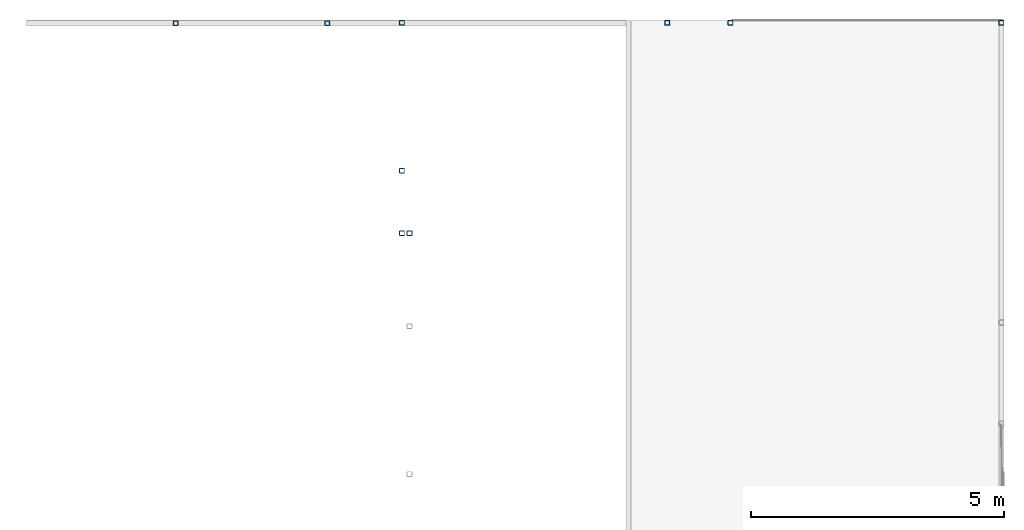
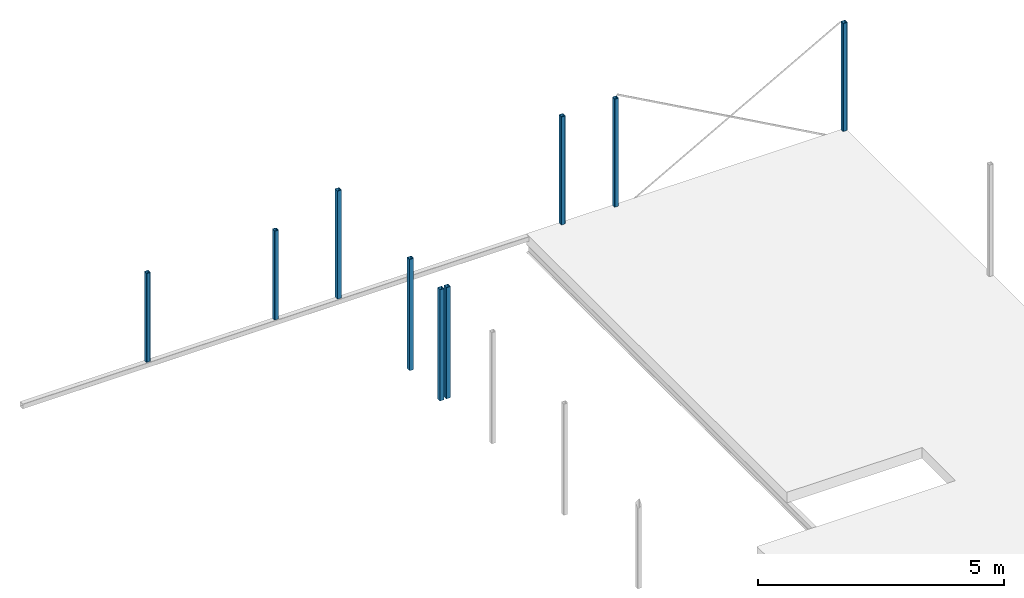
# One storey, part 4 of 7: 9 columns.
"""IFC2X3 building model written with IfcOpenShell, lengths in millimetres."""

import ifcopenshell
import ifcopenshell.guid

model = None  # the IFC model being written
_history = None  # IfcOwnerHistory: only IFC2X3 demands one
_inside = {}  # id of a spatial element -> (the spatial element, [elements in it])
_under = {}  # id of a project, library or spatial element -> (it, [spatial elements below it])
_declared = {}  # id of a project -> (the project, [libraries it declares])
_typed = {}  # id of a type object -> (the type object, [elements of that type])
_made_of = {}  # id of a material, layer set ... -> (it, [elements and type objects made of it])


def new_model(schema):
    """Start an empty IFC model of exactly this schema.

    Asked for "IFC4X3", IfcOpenShell would pick the latest addendum, in which some entities
    have other attributes; the version numbers below select the first issue.
    IFC2X3 requires an IfcOwnerHistory on every rooted entity: one is made here for all.
    """
    global model, _history
    if schema == "IFC4X3":
        model = ifcopenshell.file(schema_version=(4, 3, 0, 0))
    else:
        model = ifcopenshell.file(schema=schema)
    _inside.clear()
    _under.clear()
    _declared.clear()
    _typed.clear()
    _made_of.clear()
    _history = None
    if model.schema == "IFC2X3":
        org = make("IfcOrganization", Name="unknown")
        user = make(
            "IfcPersonAndOrganization",
            ThePerson=make("IfcPerson", FamilyName="unknown"),
            TheOrganization=org,
        )
        app = make(
            "IfcApplication",
            ApplicationDeveloper=org,
            Version="unknown",
            ApplicationFullName="unknown",
            ApplicationIdentifier="unknown",
        )
        _history = make(
            "IfcOwnerHistory",
            OwningUser=user,
            OwningApplication=app,
            ChangeAction="ADDED",
            CreationDate=0,
        )
    return model


def make(cls, **values):
    """One entity of the class cls with the attributes given. An attribute that is None is left unset."""
    return model.create_entity(
        cls, **{name: value for name, value in values.items() if value is not None}
    )


def entity(cls, *values):
    """Any entity or typed value of the class cls, its attributes in the order of the schema. None: left unset."""
    e = model.create_entity(cls)
    for i, value in enumerate(values):
        if value is not None:
            e[i] = value
    return e


def rooted(cls, **values):
    """An entity with a GlobalId (a new one), such as an element, a storey or a relation."""
    return make(cls, GlobalId=ifcopenshell.guid.new(), OwnerHistory=_history, **values)


def si_unit(unit_type, name, prefix=None):
    """IfcSIUnit, for example si_unit("LENGTHUNIT", "METRE", prefix="MILLI")."""
    return make("IfcSIUnit", UnitType=unit_type, Prefix=prefix, Name=name)


def converted_unit(unit_type, name, factor, base, dimensions=None, offset=None):
    """IfcConversionBasedUnit, such as the inch: factor (a typed value) times the base unit."""
    return make(
        "IfcConversionBasedUnit"
        if offset is None
        else "IfcConversionBasedUnitWithOffset",
        ConversionOffset=offset,
        Dimensions=None
        if dimensions is None
        else entity("IfcDimensionalExponents", *dimensions),
        UnitType=unit_type,
        Name=name,
        ConversionFactor=make(
            "IfcMeasureWithUnit", ValueComponent=factor, UnitComponent=base
        ),
    )


def derived_unit(unit_type, elements):
    """IfcDerivedUnit: a product of units, each with its exponent."""
    return make(
        "IfcDerivedUnit",
        Elements=[
            make("IfcDerivedUnitElement", Unit=unit, Exponent=power)
            for unit, power in elements
        ],
        UnitType=unit_type,
    )


def assignment(units):
    """IfcUnitAssignment: the units of a project."""
    return None if units is None else make("IfcUnitAssignment", Units=units)


def point(xyz):
    """IfcCartesianPoint."""
    return None if xyz is None else make("IfcCartesianPoint", Coordinates=xyz)


def direction(xyz):
    """IfcDirection."""
    return None if xyz is None else make("IfcDirection", DirectionRatios=xyz)


def frame(location, z_axis=None, x_axis=None):
    """IfcAxis2Placement3D, a coordinate frame: its origin and axes. An axis left out is left unset."""
    return make(
        "IfcAxis2Placement3D",
        Location=point(location),
        Axis=direction(z_axis),
        RefDirection=direction(x_axis),
    )


def frame_2d(location, x_axis=None):
    """IfcAxis2Placement2D, a coordinate frame in the plane: its origin and x axis."""
    return make(
        "IfcAxis2Placement2D", Location=point(location), RefDirection=direction(x_axis)
    )


def origin():
    """The frame at (0, 0, 0) with its axes left unset."""
    return frame((0.0, 0.0, 0.0))


def place(relative_to, where):
    """IfcLocalPlacement: puts the frame where relative to a parent placement (None: the world)."""
    return make(
        "IfcLocalPlacement", PlacementRelTo=relative_to, RelativePlacement=where
    )


def context(
    kind, dimensions, precision=None, world=None, true_north=None, identifier=None
):
    """IfcGeometricRepresentationContext, for example the 3D "Model" context."""
    return make(
        "IfcGeometricRepresentationContext",
        ContextIdentifier=identifier,
        ContextType=kind,
        CoordinateSpaceDimension=dimensions,
        Precision=precision,
        WorldCoordinateSystem=world,
        TrueNorth=true_north,
    )


def subcontext(parent, identifier, kind, view, scale=None):
    """IfcGeometricRepresentationSubContext, for example "Body" below "Model"."""
    return make(
        "IfcGeometricRepresentationSubContext",
        ContextIdentifier=identifier,
        ContextType=kind,
        ParentContext=parent,
        TargetScale=scale,
        TargetView=view,
    )


def project(units=None, contexts=None):
    """IfcProject with its units and contexts."""
    return rooted(
        "IfcProject",
        Name="project",
        RepresentationContexts=contexts,
        UnitsInContext=assignment(units),
    )


def spatial(cls, under=None, at=None, **own):
    """A site, building, storey or space (cls), placed at a placement, below another one or the project."""
    s = rooted(cls, ObjectPlacement=at, **own)
    if under is not None:
        _under.setdefault(under.id(), (under, []))[1].append(s)
    return s


def polyline(points):
    """IfcPolyline through the points."""
    return make("IfcPolyline", Points=[point(p) for p in points])


def circle_curve(where, radius):
    """IfcCircle in the frame where."""
    return make("IfcCircle", Position=where, Radius=radius)


def parameter(value):
    """IfcParameterValue: where a trimmed curve begins or ends, as a parameter of its basis curve."""
    return model.create_entity("IfcParameterValue", value)


def trimmed(basis, trim1, trim2, sense, master):
    """IfcTrimmedCurve: the piece of a basis curve between two trims."""
    return make(
        "IfcTrimmedCurve",
        BasisCurve=basis,
        Trim1=trim1,
        Trim2=trim2,
        SenseAgreement=sense,
        MasterRepresentation=master,
    )


def segment(curve, same_sense, transition):
    """IfcCompositeCurveSegment."""
    return make(
        "IfcCompositeCurveSegment",
        Transition=transition,
        SameSense=same_sense,
        ParentCurve=curve,
    )


def composite_curve(segments, self_intersect=None):
    """IfcCompositeCurve: segments joined end to end."""
    return make("IfcCompositeCurve", Segments=segments, SelfIntersect=self_intersect)


def outline(outer, holes=None, kind="AREA"):
    """IfcArbitraryClosedProfileDef: a profile drawn as a closed curve; with holes, ...WithVoids."""
    if holes is None:
        return make("IfcArbitraryClosedProfileDef", ProfileType=kind, OuterCurve=outer)
    return make(
        "IfcArbitraryProfileDefWithVoids",
        ProfileType=kind,
        OuterCurve=outer,
        InnerCurves=holes,
    )


def extrude(swept, where, along, depth):
    """IfcExtrudedAreaSolid: the profile swept, set in the frame where, extruded along a direction by depth."""
    return make(
        "IfcExtrudedAreaSolid",
        SweptArea=swept,
        Position=where,
        ExtrudedDirection=direction(along),
        Depth=depth,
    )


def shape(context_of_items, identifier, shape_type, items):
    """IfcShapeRepresentation: the items that make up one representation, for example the "Body"."""
    return make(
        "IfcShapeRepresentation",
        ContextOfItems=context_of_items,
        RepresentationIdentifier=identifier,
        RepresentationType=shape_type,
        Items=items,
    )


def source(mapping_origin, context_of_items, identifier, shape_type, items):
    """IfcRepresentationMap: a shape defined once, which mapped items show again and again."""
    return make(
        "IfcRepresentationMap",
        MappingOrigin=mapping_origin,
        MappedRepresentation=shape(context_of_items, identifier, shape_type, items),
    )


def transform(
    local_origin,
    x_axis=None,
    y_axis=None,
    z_axis=None,
    scale=None,
    scale2=None,
    scale3=None,
    uniform=True,
):
    """IfcCartesianTransformationOperator3D, or its non-uniform kind. x_axis, y_axis, z_axis: its Axis1, 2, 3."""
    if uniform:
        return make(
            "IfcCartesianTransformationOperator3D",
            Axis1=direction(x_axis),
            Axis2=direction(y_axis),
            LocalOrigin=point(local_origin),
            Scale=scale,
            Axis3=direction(z_axis),
        )
    return make(
        "IfcCartesianTransformationOperator3DnonUniform",
        Axis1=direction(x_axis),
        Axis2=direction(y_axis),
        LocalOrigin=point(local_origin),
        Scale=scale,
        Axis3=direction(z_axis),
        Scale2=scale2,
        Scale3=scale3,
    )


def mapped(mapping_source, mapping_target):
    """IfcMappedItem: shows the shape of a source again, moved by a transform."""
    return make(
        "IfcMappedItem", MappingSource=mapping_source, MappingTarget=mapping_target
    )


def material(Name=None, Category=None):
    """IfcMaterial."""
    return make("IfcMaterial", Name=Name, Category=Category)


def made_of(thing, what):
    """Note that an element or type object is made of a material, layer set ...; save() writes the relation."""
    if what is not None:
        _made_of.setdefault(what.id(), (what, []))[1].append(thing)
    return thing


def type_object(cls, material=None, **own):
    """A type object (cls), such as IfcWallType, which elements share."""
    return made_of(rooted(cls, **own), material)


def type_shapes(of_type, sources):
    """Give a type object the sources (RepresentationMaps) that its elements show as mapped items."""
    of_type.RepresentationMaps = sources


def element(
    cls,
    number,
    at=None,
    inside=None,
    cuts=None,
    type_object=None,
    material=None,
    context=None,
    identifier="Body",
    shape_type=None,
    held_by="IfcProductDefinitionShape",
    body=None,
    shapes=None,
    **own,
):
    """One element of the class cls, such as IfcWall. Its Tag is "e" and its number.

    at: its placement. inside: the storey or other place that contains it. cuts: it is an
    opening in that element (IfcRelVoidsElement). A single representation is given by context,
    identifier, shape_type and body (its items); several are given by shapes. held_by: the class
    of the entity that holds the representations. save() writes the other relations.
    """
    e = rooted(cls, Tag="e%d" % number, ObjectPlacement=at, **own)
    if body is not None:
        shapes = [shape(context, identifier, shape_type, body)]
    if shapes is not None:
        e.Representation = make(held_by, Representations=shapes)
    if inside is not None:
        _inside.setdefault(inside.id(), (inside, []))[1].append(e)
    if cuts is not None:
        rooted(
            "IfcRelVoidsElement", RelatingBuildingElement=cuts, RelatedOpeningElement=e
        )
    if type_object is not None:
        _typed.setdefault(type_object.id(), (type_object, []))[1].append(e)
    return made_of(e, material)


def aggregate(whole, parts):
    """IfcRelAggregates: a whole, such as a stair, and the parts it consists of."""
    return rooted("IfcRelAggregates", RelatingObject=whole, RelatedObjects=parts)


def save(model, path):
    """Write the relations noted so far, then the file.

    IfcRelAggregates (storeys below a building ...), IfcRelContainedInSpatialStructure (elements
    in a storey), IfcRelDefinesByType, IfcRelAssociatesMaterial and IfcRelDeclares: one each for
    every whole, place, type object, material and project.
    """
    for whole, parts in _under.values():
        aggregate(whole, parts)
    for where, things in _inside.values():
        rooted(
            "IfcRelContainedInSpatialStructure",
            RelatedElements=things,
            RelatingStructure=where,
        )
    for kind, things in _typed.values():
        rooted("IfcRelDefinesByType", RelatedObjects=things, RelatingType=kind)
    for what, things in _made_of.values():
        rooted("IfcRelAssociatesMaterial", RelatedObjects=things, RelatingMaterial=what)
    for by, libraries in _declared.values():
        rooted("IfcRelDeclares", RelatingContext=by, RelatedDefinitions=libraries)
    model.write(path)


model = new_model("IFC2X3")

# Units and contexts
model_context = context("Model", 3, precision=0.01, world=origin(), true_north=direction((6.12303176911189e-17, 1.0)))
body_context = subcontext(model_context, "Body", "Model", "MODEL_VIEW")
ifc_project = project(units=[si_unit("LENGTHUNIT", "METRE", prefix="MILLI"), si_unit("AREAUNIT", "SQUARE_METRE"), si_unit("VOLUMEUNIT", "CUBIC_METRE"), converted_unit("PLANEANGLEUNIT", "DEGREE", entity("IfcRatioMeasure", 0.0174532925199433), si_unit("PLANEANGLEUNIT", "RADIAN"), dimensions=[0, 0, 0, 0, 0, 0, 0]), si_unit("MASSUNIT", "GRAM", prefix="KILO"), derived_unit("MASSDENSITYUNIT", [(si_unit("MASSUNIT", "GRAM", prefix="KILO"), 1), (si_unit("LENGTHUNIT", "METRE"), -3)]), si_unit("TIMEUNIT", "SECOND"), si_unit("FREQUENCYUNIT", "HERTZ"), si_unit("THERMODYNAMICTEMPERATUREUNIT", "DEGREE_CELSIUS"), derived_unit("THERMALTRANSMITTANCEUNIT", [(si_unit("MASSUNIT", "GRAM", prefix="KILO"), 1), (si_unit("THERMODYNAMICTEMPERATUREUNIT", "KELVIN"), -1), (si_unit("TIMEUNIT", "SECOND"), -3)]), derived_unit("VOLUMETRICFLOWRATEUNIT", [(si_unit("LENGTHUNIT", "METRE"), 3), (si_unit("TIMEUNIT", "SECOND"), -1)]), si_unit("ELECTRICCURRENTUNIT", "AMPERE"), si_unit("ELECTRICVOLTAGEUNIT", "VOLT"), si_unit("POWERUNIT", "WATT"), si_unit("FORCEUNIT", "NEWTON", prefix="KILO"), si_unit("ILLUMINANCEUNIT", "LUX"), si_unit("LUMINOUSFLUXUNIT", "LUMEN"), si_unit("LUMINOUSINTENSITYUNIT", "CANDELA"), derived_unit("USERDEFINED", [(si_unit("MASSUNIT", "GRAM", prefix="KILO"), -1), (si_unit("LENGTHUNIT", "METRE"), -2), (si_unit("TIMEUNIT", "SECOND"), 3), (si_unit("LUMINOUSFLUXUNIT", "LUMEN"), 1)]), derived_unit("LINEARVELOCITYUNIT", [(si_unit("LENGTHUNIT", "METRE"), 1), (si_unit("TIMEUNIT", "SECOND"), -1)]), si_unit("PRESSUREUNIT", "PASCAL"), derived_unit("USERDEFINED", [(si_unit("LENGTHUNIT", "METRE"), -2), (si_unit("MASSUNIT", "GRAM", prefix="KILO"), 1), (si_unit("TIMEUNIT", "SECOND"), -2)])], contexts=[model_context])

# Site, building, storey
site_placement = place(None, frame((0.0, 0.0, 101000.0)))
site = spatial("IfcSite", under=ifc_project, at=site_placement, Name="Default", CompositionType="ELEMENT")
building_placement = place(site_placement, origin())
building = spatial("IfcBuilding", under=site, at=building_placement, CompositionType="ELEMENT")
storey_placement = place(building_placement, frame((0.0, 0.0, 3150.0)))
storey = spatial("IfcBuildingStorey", under=building, at=storey_placement, Name="02", CompositionType="ELEMENT", Elevation=3149.9999999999)

# Columns
ifc_material = material(Name="S355")
column_type_1 = type_object("IfcColumnType", Name="HUP 100x100x6.3", PredefinedType="COLUMN", material=ifc_material)
shared_shape_1 = source(origin(), body_context, "Body", "SweptSolid", [
    extrude(outline(composite_curve([segment(polyline([(-37.4000000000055, -50.0), (37.4000000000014, -50.0)]), True, "CONTINUOUS"), segment(trimmed(circle_curve(frame_2d((37.4000000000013, -37.3999999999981), x_axis=(-1.0, 0.0)), 12.6000000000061), [parameter(90.0000000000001)], [parameter(180.0)], True, "PARAMETER"), True, "CONTINUOUS"), segment(polyline([(50.0, -37.3999999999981), (50.0, 37.4000000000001)]), True, "CONTINUOUS"), segment(trimmed(circle_curve(frame_2d((37.4000000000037, 37.4000000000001), x_axis=(-1.0, 0.0)), 12.6000000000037), [parameter(180.0)], [parameter(270.0)], True, "PARAMETER"), True, "CONTINUOUS"), segment(polyline([(37.4000000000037, 50.0), (-37.4000000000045, 50.0)]), True, "CONTINUOUS"), segment(trimmed(circle_curve(frame_2d((-37.4000000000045, 37.4000000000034), x_axis=(-1.0, 0.0)), 12.6000000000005), [parameter(270.0)], [parameter(360.0)], True, "PARAMETER"), True, "CONTINUOUS"), segment(polyline([(-50.0, 37.4000000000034), (-50.0, -37.4000000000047)]), True, "CONTINUOUS"), segment(trimmed(circle_curve(frame_2d((-37.4000000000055, -37.4000000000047), x_axis=(-1.0, 0.0)), 12.5999999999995), [parameter(360.0)], [parameter(89.9999999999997)], True, "PARAMETER"), True, "CONTINUOUS")], self_intersect=False), holes=[composite_curve([segment(trimmed(circle_curve(frame_2d((-37.4000000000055, -37.4000000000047), x_axis=(-1.0, 0.0)), 6.2999999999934), [parameter(0.0)], [parameter(90.0)], True, "PARAMETER"), False, "CONTINUOUS"), segment(polyline([(-43.6999999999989, -37.4000000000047), (-43.6999999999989, 37.4000000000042)]), True, "CONTINUOUS"), segment(trimmed(circle_curve(frame_2d((-37.4000000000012, 37.4000000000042), x_axis=(-1.0, 0.0)), 6.29999999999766), [parameter(270.0)], [parameter(360.0)], True, "PARAMETER"), False, "CONTINUOUS"), segment(polyline([(-37.4000000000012, 43.7000000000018), (37.3999999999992, 43.7000000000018)]), True, "CONTINUOUS"), segment(trimmed(circle_curve(frame_2d((37.3999999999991, 37.3999999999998), x_axis=(-1.0, 0.0)), 6.30000000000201), [parameter(180.0)], [parameter(270.0)], True, "PARAMETER"), False, "CONTINUOUS"), segment(polyline([(43.7000000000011, 37.3999999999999), (43.7000000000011, -37.3999999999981)]), True, "CONTINUOUS"), segment(trimmed(circle_curve(frame_2d((37.4000000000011, -37.3999999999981), x_axis=(-1.0, 0.0)), 6.30000000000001), [parameter(90.0000000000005)], [parameter(180.0)], True, "PARAMETER"), False, "CONTINUOUS"), segment(polyline([(37.4000000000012, -43.6999999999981), (-37.4000000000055, -43.6999999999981)]), True, "CONTINUOUS")], self_intersect=False)]), frame((0.0, 0.0, 3150.0), z_axis=(0.0, 0.0, 1.0), x_axis=(-1.0, 0.0, 0.0)), (0.0, 0.0, 1.0), 2755.0),
])
type_shapes(column_type_1, [shared_shape_1])
for number, where, name in (
    (1, (11260.9045409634, 41417.9507529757, -3150.0), "Søyle HUP:HUP 100x100x6.3"),
    (2, (11260.9045409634, 40181.9922592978, -3150.0), "Søyle HUP:HUP 100x100x6.3"),
    (3, (11411.2644969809, 40181.9922592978, -3150.0), "Søyle HUP:HUP 100x100x6.3"),
):
    element("IfcColumn", number, at=place(storey_placement, frame(where)), inside=storey, type_object=column_type_1, material=ifc_material, Name=name, ObjectType="HUP 100x100x6.3", context=body_context, shape_type="MappedRepresentation", body=[
        mapped(shared_shape_1, transform((0.0, 0.0, 0.0), scale=1.0)),
    ])
column_type_2 = type_object("IfcColumnType", Name="HUP 100x100x6.3", PredefinedType="COLUMN", material=ifc_material)
shared_shape_2 = source(origin(), body_context, "Body", "SweptSolid", [
    extrude(outline(composite_curve([segment(polyline([(-37.4000000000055, -50.0), (37.4000000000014, -50.0)]), True, "CONTINUOUS"), segment(trimmed(circle_curve(frame_2d((37.4000000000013, -37.3999999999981), x_axis=(-1.0, 0.0)), 12.6000000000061), [parameter(90.0000000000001)], [parameter(180.0)], True, "PARAMETER"), True, "CONTINUOUS"), segment(polyline([(50.0, -37.3999999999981), (50.0, 37.4000000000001)]), True, "CONTINUOUS"), segment(trimmed(circle_curve(frame_2d((37.4000000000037, 37.4000000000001), x_axis=(-1.0, 0.0)), 12.6000000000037), [parameter(180.0)], [parameter(270.0)], True, "PARAMETER"), True, "CONTINUOUS"), segment(polyline([(37.4000000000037, 50.0), (-37.4000000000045, 50.0)]), True, "CONTINUOUS"), segment(trimmed(circle_curve(frame_2d((-37.4000000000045, 37.4000000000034), x_axis=(-1.0, 0.0)), 12.6000000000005), [parameter(270.0)], [parameter(360.0)], True, "PARAMETER"), True, "CONTINUOUS"), segment(polyline([(-50.0, 37.4000000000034), (-50.0, -37.4000000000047)]), True, "CONTINUOUS"), segment(trimmed(circle_curve(frame_2d((-37.4000000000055, -37.4000000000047), x_axis=(-1.0, 0.0)), 12.5999999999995), [parameter(360.0)], [parameter(89.9999999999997)], True, "PARAMETER"), True, "CONTINUOUS")], self_intersect=False), holes=[composite_curve([segment(trimmed(circle_curve(frame_2d((-37.4000000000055, -37.4000000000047), x_axis=(-1.0, 0.0)), 6.2999999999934), [parameter(0.0)], [parameter(90.0)], True, "PARAMETER"), False, "CONTINUOUS"), segment(polyline([(-43.6999999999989, -37.4000000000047), (-43.6999999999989, 37.4000000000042)]), True, "CONTINUOUS"), segment(trimmed(circle_curve(frame_2d((-37.4000000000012, 37.4000000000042), x_axis=(-1.0, 0.0)), 6.29999999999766), [parameter(270.0)], [parameter(360.0)], True, "PARAMETER"), False, "CONTINUOUS"), segment(polyline([(-37.4000000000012, 43.7000000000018), (37.3999999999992, 43.7000000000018)]), True, "CONTINUOUS"), segment(trimmed(circle_curve(frame_2d((37.3999999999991, 37.3999999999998), x_axis=(-1.0, 0.0)), 6.30000000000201), [parameter(180.0)], [parameter(270.0)], True, "PARAMETER"), False, "CONTINUOUS"), segment(polyline([(43.7000000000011, 37.3999999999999), (43.7000000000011, -37.3999999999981)]), True, "CONTINUOUS"), segment(trimmed(circle_curve(frame_2d((37.4000000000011, -37.3999999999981), x_axis=(-1.0, 0.0)), 6.30000000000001), [parameter(90.0000000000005)], [parameter(180.0)], True, "PARAMETER"), False, "CONTINUOUS"), segment(polyline([(37.4000000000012, -43.6999999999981), (-37.4000000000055, -43.6999999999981)]), True, "CONTINUOUS")], self_intersect=False)]), frame((0.0, 0.0, 3150.0), z_axis=(0.0, 0.0, 1.0), x_axis=(-1.0, 0.0, 0.0)), (0.0, 0.0, 1.0), 2675.0),
])
type_shapes(column_type_2, [shared_shape_2])
for number, where, name in (
    (4, (11260.9045409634, 44342.9507529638, -3150.0), "Søyle HUP:HUP 100x100x6.3"),
    (5, (16507.0344394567, 44342.9507529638, -3150.0), "Søyle HUP:HUP 100x100x6.3"),
    (6, (17755.2234858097, 44342.9507529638, -3150.0), "Søyle HUP:HUP 100x100x6.3"),
    (7, (23111.2644969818, 44342.9507529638, -3150.0), "Søyle HUP:HUP 100x100x6.3"),
):
    element("IfcColumn", number, at=place(storey_placement, frame(where)), inside=storey, type_object=column_type_2, material=ifc_material, Name=name, ObjectType="HUP 100x100x6.3", context=body_context, shape_type="MappedRepresentation", body=[
        mapped(shared_shape_2, transform((0.0, 0.0, 0.0), scale=1.0)),
    ])
column_type_3 = type_object("IfcColumnType", Name="HUP 100x100x10", PredefinedType="COLUMN", material=ifc_material)
shared_shape_3 = source(origin(), body_context, "Body", "SweptSolid", [
    extrude(outline(composite_curve([segment(polyline([(-30.0, -50.0), (30.0, -50.0)]), True, "CONTINUOUS"), segment(trimmed(circle_curve(frame_2d((30.0, -30.0), x_axis=(-1.0, 0.0)), 20.0000000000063), [parameter(90.0000000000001)], [parameter(180.0)], True, "PARAMETER"), True, "CONTINUOUS"), segment(polyline([(50.0, -30.0), (50.0, 30.0)]), True, "CONTINUOUS"), segment(trimmed(circle_curve(frame_2d((30.0, 30.0), x_axis=(-1.0, 0.0)), 20.0000000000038), [parameter(180.0)], [parameter(270.0)], True, "PARAMETER"), True, "CONTINUOUS"), segment(polyline([(30.0, 50.0), (-30.0, 50.0)]), True, "CONTINUOUS"), segment(trimmed(circle_curve(frame_2d((-30.0, 30.0), x_axis=(-1.0, 0.0)), 20.0000000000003), [parameter(270.0)], [parameter(360.0)], True, "PARAMETER"), True, "CONTINUOUS"), segment(polyline([(-50.0, 30.0), (-50.0, -30.0)]), True, "CONTINUOUS"), segment(trimmed(circle_curve(frame_2d((-30.0, -30.0), x_axis=(-1.0, 0.0)), 19.9999999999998), [parameter(360.0)], [parameter(89.9999999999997)], True, "PARAMETER"), True, "CONTINUOUS")], self_intersect=False), holes=[composite_curve([segment(trimmed(circle_curve(frame_2d((-30.0, -30.0), x_axis=(-1.0, 0.0)), 9.99999999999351), [parameter(0.0)], [parameter(90.0)], True, "PARAMETER"), False, "CONTINUOUS"), segment(polyline([(-40.0, -30.0), (-40.0, 30.0)]), True, "CONTINUOUS"), segment(trimmed(circle_curve(frame_2d((-30.0, 30.0), x_axis=(-1.0, 0.0)), 9.99999999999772), [parameter(270.0)], [parameter(0.0)], True, "PARAMETER"), False, "CONTINUOUS"), segment(polyline([(-30.0, 40.0), (30.0, 40.0)]), True, "CONTINUOUS"), segment(trimmed(circle_curve(frame_2d((30.0, 30.0), x_axis=(-1.0, 0.0)), 10.000000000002), [parameter(180.0)], [parameter(270.0)], True, "PARAMETER"), False, "CONTINUOUS"), segment(polyline([(40.0, 30.0), (40.0, -30.0)]), True, "CONTINUOUS"), segment(trimmed(circle_curve(frame_2d((30.0, -30.0), x_axis=(-1.0, 0.0)), 10.0), [parameter(90.0000000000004)], [parameter(180.0)], True, "PARAMETER"), False, "CONTINUOUS"), segment(polyline([(30.0, -40.0), (-30.0, -40.0)]), True, "CONTINUOUS")], self_intersect=False)]), frame((6786.26449698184, 44337.9507529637, 3150.0), z_axis=(0.0, 0.0, 1.0), x_axis=(-1.0, 0.0, 0.0)), (0.0, 0.0, 1.0), 2200.0),
])
type_shapes(column_type_3, [shared_shape_3])
column_1_placement = place(storey_placement, frame((0.0, 0.0, -3150.0)))
element("IfcColumn", 8, at=column_1_placement, inside=storey, type_object=column_type_3, material=ifc_material, Name="Søyle HUP:HUP 100x100x10", ObjectType="HUP 100x100x10", context=body_context, shape_type="MappedRepresentation", body=[
    mapped(shared_shape_3, transform((0.0, 0.0, 0.0), scale=1.0)),
])
column_type_4 = type_object("IfcColumnType", Name="HUP 100x100x10", PredefinedType="COLUMN", material=ifc_material)
shared_shape_4 = source(origin(), body_context, "Body", "SweptSolid", [
    extrude(outline(composite_curve([segment(polyline([(-30.0, -50.0), (30.0, -50.0)]), True, "CONTINUOUS"), segment(trimmed(circle_curve(frame_2d((30.0, -30.0), x_axis=(-1.0, 0.0)), 20.0000000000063), [parameter(90.0000000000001)], [parameter(180.0)], True, "PARAMETER"), True, "CONTINUOUS"), segment(polyline([(50.0, -30.0), (50.0, 30.0)]), True, "CONTINUOUS"), segment(trimmed(circle_curve(frame_2d((30.0, 30.0), x_axis=(-1.0, 0.0)), 20.0000000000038), [parameter(180.0)], [parameter(270.0)], True, "PARAMETER"), True, "CONTINUOUS"), segment(polyline([(30.0, 50.0), (-30.0, 50.0)]), True, "CONTINUOUS"), segment(trimmed(circle_curve(frame_2d((-30.0, 30.0), x_axis=(-1.0, 0.0)), 20.0000000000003), [parameter(270.0)], [parameter(360.0)], True, "PARAMETER"), True, "CONTINUOUS"), segment(polyline([(-50.0, 30.0), (-50.0, -30.0)]), True, "CONTINUOUS"), segment(trimmed(circle_curve(frame_2d((-30.0, -30.0), x_axis=(-1.0, 0.0)), 19.9999999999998), [parameter(360.0)], [parameter(89.9999999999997)], True, "PARAMETER"), True, "CONTINUOUS")], self_intersect=False), holes=[composite_curve([segment(trimmed(circle_curve(frame_2d((-30.0, -30.0), x_axis=(-1.0, 0.0)), 9.99999999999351), [parameter(0.0)], [parameter(90.0)], True, "PARAMETER"), False, "CONTINUOUS"), segment(polyline([(-40.0, -30.0), (-40.0, 30.0)]), True, "CONTINUOUS"), segment(trimmed(circle_curve(frame_2d((-30.0, 30.0), x_axis=(-1.0, 0.0)), 9.99999999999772), [parameter(270.0)], [parameter(0.0)], True, "PARAMETER"), False, "CONTINUOUS"), segment(polyline([(-30.0, 40.0), (30.0, 40.0)]), True, "CONTINUOUS"), segment(trimmed(circle_curve(frame_2d((30.0, 30.0), x_axis=(-1.0, 0.0)), 10.000000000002), [parameter(180.0)], [parameter(270.0)], True, "PARAMETER"), False, "CONTINUOUS"), segment(polyline([(40.0, 30.0), (40.0, -30.0)]), True, "CONTINUOUS"), segment(trimmed(circle_curve(frame_2d((30.0, -30.0), x_axis=(-1.0, 0.0)), 10.0), [parameter(90.0000000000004)], [parameter(180.0)], True, "PARAMETER"), False, "CONTINUOUS"), segment(polyline([(30.0, -40.0), (-30.0, -40.0)]), True, "CONTINUOUS")], self_intersect=False)]), frame((9786.26449698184, 44337.9507529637, 3150.0), z_axis=(0.0, 0.0, 1.0), x_axis=(-1.0, 0.0, 0.0)), (0.0, 0.0, 1.0), 2200.0),
])
type_shapes(column_type_4, [shared_shape_4])
column_2_placement = place(storey_placement, frame((0.0, 0.0, -3150.0)))
element("IfcColumn", 9, at=column_2_placement, inside=storey, type_object=column_type_4, material=ifc_material, Name="Søyle HUP:HUP 100x100x10", ObjectType="HUP 100x100x10", context=body_context, shape_type="MappedRepresentation", body=[
    mapped(shared_shape_4, transform((0.0, 0.0, 0.0), scale=1.0)),
])

save(model, "model.ifc")
